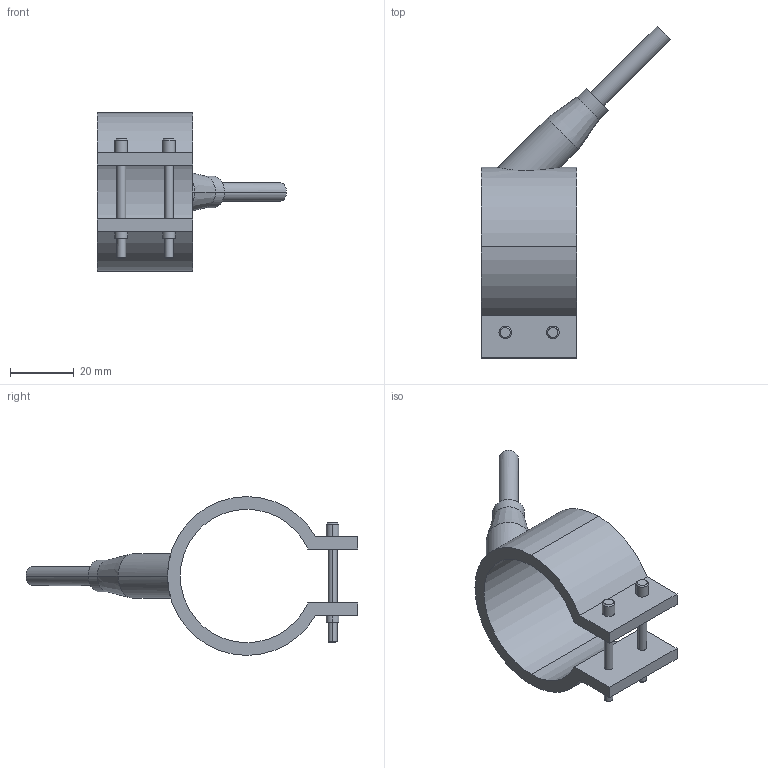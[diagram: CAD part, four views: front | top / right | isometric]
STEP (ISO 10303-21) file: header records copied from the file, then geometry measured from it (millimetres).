
FILE_DESCRIPTION(('CATIA V5 STEP Exchange'),'2;1');
FILE_NAME('C:\Users\Utente\Desktop\IO LAVORO\3D X SITO CF\X SITO\PLASTICA\RF1\29042030.stp','2021-03-27T09:39:12+00:00',('none'),('none'),'CATIA Version 5 Release 20 GA (IN-10)','CATIA V5 STEP AP203','none');
FILE_SCHEMA(('CONFIG_CONTROL_DESIGN'));
Length unit declared in the file: millimetre
Products named in the file (1): 29042030
Bounding box: 59.55 x 104.55 x 50 mm (x, y, z)
Volume: 23470.3 mm3; surface area: 12767.5 mm2
Topology: 1 solids, 1 shells, 54 faces, 123 edges, 79 vertices
Faces by surface type: cylinder 28, plane 16, cone 10
Entity records: 1741 total; most frequent: CARTESIAN_POINT 511, ORIENTED_EDGE 246, DIRECTION 212, EDGE_CURVE 123, AXIS2_PLACEMENT_3D 105, VERTEX_POINT 79, EDGE_LOOP 66, VECTOR 56
